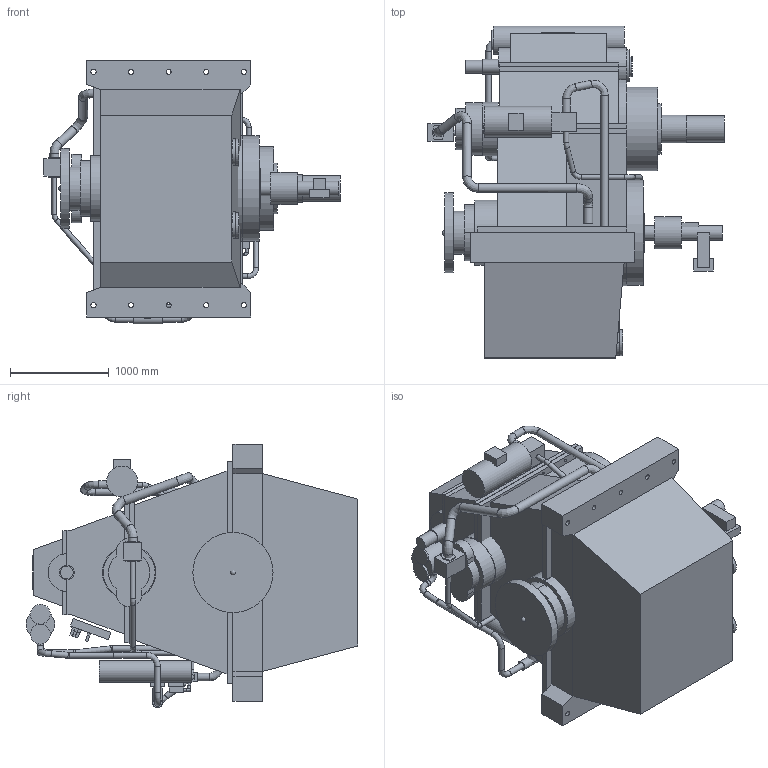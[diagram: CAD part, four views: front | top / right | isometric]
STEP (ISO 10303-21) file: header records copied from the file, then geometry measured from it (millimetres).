
FILE_DESCRIPTION(/* description */ (''),/* implementation_level */ '2;1');
FILE_NAME(/* name */ 'SV105_P63',/* time_stamp */ '2008-02-12T20:38:15+05:00',/* author */ (''),/* organization */ (''),/* preprocessor_version */ 'ST-DEVELOPER v9',/* originating_system */ 'UGS - NX 4.0',/* authorisation */ '');
FILE_SCHEMA (('CONFIG_CONTROL_DESIGN','SHAPE_APPEARANCE_LAYER_MIM'));
Length unit declared in the file: millimetre
Products named in the file (73): PAAJ001461_Secondary_shaft_ipart_simplified; 396622_GEAR_HOUSING_ipart_simplified; 697615_GEAR_HOUSING_ipart_simplified; 473553_GEAR_HOUSING_ipart_simplified; 697607_GEAR_HOUSING_ipart_simplified; 1278944_PTO_pinion_shaft_105_P63_ipart_simplified; 1278936_Pinion_SV_105_ipart_simplified; 1G_11007G02_1G_11007G02_ipart_simplified; 1G_11007G01_1G_11007G01_ipart_simplified; SV105_P63_connection_points_cooling_water_out_simp; SV105_P63_connection_points_cooling_water_in_simpl; 90_grader_48.3x2.6_bend_DN_40_ipart_simplified; 1174978_ROR_D50X3_SV105_ipart_simplified; PAAJ001538_Pipe_ipart_simplified; PAAJ001537_Pipe_ipart_simplified; 580175_VALVE_BLOCK_ipart_simplified; 90_grader_76.1x2.9_bend_DIN_2605_ipart_simplified; 3G_120154C_TCG_2276_3G_120154C_ipart_simplified; 3G_140142C_TCG_2749_3G_140142C_ipart_simplified; PAAJ001487_Cover_ipart_simplified; 776906_Pump_cw_ipart_simplified; 1029651_LAGERHUS_116_ipart_simplified; 1276302_LASERING_ipart_simplified; 3G_120292E_TCG_2483_3G_120292E_ipart_simplified; PAAJ000620_Pump_unit_ipart_simplified; 3G_110184F_1_Flens_ipart_simplified; PAAJ001473_Thrust_flange_ipart_simplified; 3G_120092F_TCG_2224_3G_120092F_ipart_simplified; PAAJ000790_Pipe_ipart_simplified; PAAJ000789_Pipe_ipart_simplified; PAAJ000788_Pipe_ipart_simplified; PAAJ001540_Pipe_ipart_simplified; PAAJ001539_Pipe_ipart_simplified; PAAJ000786_Pipe_ipart_simplified; 176396_Pipe_bend_ipart_simplified; PAAJ000787_Pipe_ipart_simplified; 518050_Pressure_switch_ipart_simplified; 483883_BLOKK_FOR_PRESSOSTATER_ipart_simplified; Manometer_Manometer_ipart_simplified; SV105_p63_co_ordinate_simplified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
Assembly tree (79 placements, depth 6):
  SV105_P63
    PAAJ001672_SV105-P63_Piping arrangement_iassy_simplified

      3G_801424KS1_Sugeroer_nedre_105_iassy_simplified
      EWV_28_X01_EWV_28L_ipart_simplified  x2
      P28_2P_L_1100_art_nr_681692_P28_2P_05_MV_uten_labb
      3G_8002_2DS2_Pressostatblokk_iassy_simplified
        Manometer_Manometer_ipart_simplified
        483883_BLOKK_FOR_PRESSOSTATER_ipart_simplified
        518050_Pressure_switch_ipart_simplified  x4
      PAAJ001974_Pipe_assembly_iassy_simplified
        PAAJ000787_Pipe_ipart_simplified
      PAAJ001976_Pipe_assembly_iassy_simplified
        176396_Pipe_bend_ipart_simplified  x2
        PAAJ000786_Pipe_ipart_simplified
      PAAJ001972_Pipe_assembly_iassy_simplified
        PAAJ001539_Pipe_ipart_simplified
      PAAJ001959_Suction_pipe_iassy_simplified
        PAAJ001540_Pipe_ipart_simplified
      PAAJ001977_Pipe_assembly_iassy_simplified
        PAAJ000788_Pipe_ipart_simplified
      PAAJ001979_Pipe_assembly_iassy_simplified
        PAAJ000789_Pipe_ipart_simplified
      PAAJ001980_Pipe_assembly_iassy_simplified
        PAAJ000790_Pipe_ipart_simplified
        176396_Pipe_bend_ipart_simplified
      PAAJ001592_Gear_complete_iassy_simplified
        3G_120092F_TCG_2224_3G_120092F_ipart_simplified
        3G_110072GS1_X01_3G_110072GS1_iassy_simplified
          1G_11007G01_1G_11007G01_ipart_simplified
          1G_11007G02_1G_11007G02_ipart_simplified
        PAAJ001473_Thrust_flange_ipart_simplified
        PAAJ001493_Shaft_assembly_iassy_simplified
          1278936_Pinion_SV_105_ipart_simplified
          PAAJ001462_Secondary_shaft_iassy_simplified
            PAAJ001461_Secondary_shaft_ipart_simplified
          1278944_PTO_pinion_shaft_105_P63_ipart_simplified
        3G_110184F_1_Flens_ipart_simplified  x2
        PAAJ000620_Pump_unit_ipart_simplified
        697300_GEAR_HOUSING_iassy_simplified
          697607_GEAR_HOUSING_ipart_simplified
          473553_GEAR_HOUSING_ipart_simplified
          697615_GEAR_HOUSING_ipart_simplified
          396622_GEAR_HOUSING_ipart_simplified
        3G_120292E_TCG_2483_3G_120292E_ipart_simplified
        1276302_LASERING_ipart_simplified
        1029651_LAGERHUS_116_ipart_simplified
        776906_Pump_cw_ipart_simplified
        PAAJ001487_Cover_ipart_simplified
        3G_140142C_TCG_2749_3G_140142C_ipart_simplified
        3G_120154C_TCG_2276_3G_120154C_ipart_simplified
      1081181_BLOCK_ipart_simplified
      3G_806304HS1_Roer_60mm_iassy_simplified
        90_grader_76.1x2.9_bend_DIN_2605_ipart_simplified
      3G_8005_2CS2_Ventilblokk_iassy_simplified
        580175_VALVE_BLOCK_ipart_simplified
      Filter_FFP_32035C_Artnr_ipart_simplified
      473827_PIPE_ipart_simplified
      PAAJ001962_Suction_pipe_iassy_simplified
        PAAJ001537_Pipe_ipart_simplified
      3G_110384AS1_Nivabryterhus_iassy_simplified
Bounding box: 2997 x 3358.24 x 2670.5 mm (x, y, z)
Volume: 7675197210.2 mm3; surface area: 84846656.6 mm2
Topology: 93 solids, 93 shells, 534 faces, 1481 edges, 1561 vertices
Faces by surface type: plane 371, cylinder 123, bspline 35, extrusion 4, sphere 1
Full cylindrical faces by diameter (mm): 13 x1, 28 x5, 30 x4, 34 x10, 48.3 x1, 50 x20, 52 x4, 60 x13, 60.3 x6, 63 x1, 75 x3, 76.1 x2, 90 x6, 95 x1, 95.317 x1, 130 x1, 149 x1, 150 x1, 200 x4, 263.734 x1, 265 x2, 280 x1, 289 x1, 314 x1, 325 x1, 400 x1, 435 x1, 510 x1, 527 x1, 811 x1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
Entity records: 27704 total; most frequent: CARTESIAN_POINT 6018, DIRECTION 2438, ORIENTED_EDGE 1518, VECTOR 934, LINE 930, EDGE_CURVE 759, AXIS2_PLACEMENT_3D 752, PERSON_AND_ORGANIZATION 669
